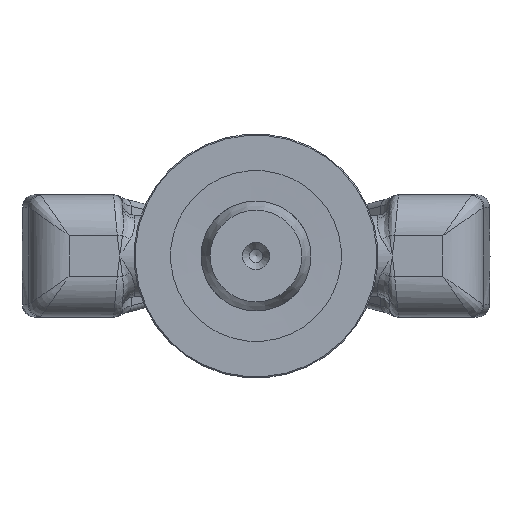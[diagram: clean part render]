
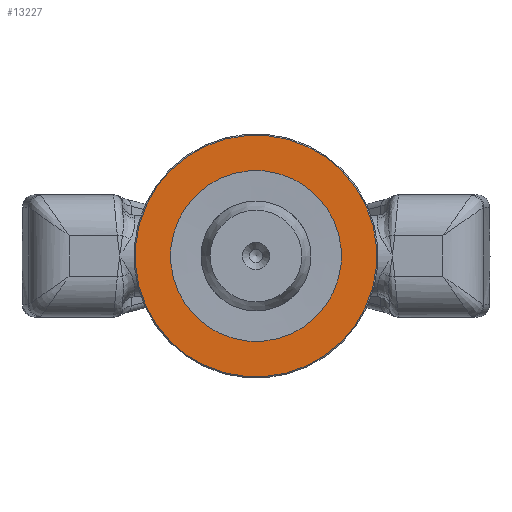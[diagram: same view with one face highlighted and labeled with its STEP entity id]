
A CAD part, front view. The second image highlights one B-rep face of the part: STEP entity #13227.
In plain terms, the highlighted planar face has unit normal (0, -1, 0) as drawn and (0, 0, -1) by its records, which use the part's own axes.
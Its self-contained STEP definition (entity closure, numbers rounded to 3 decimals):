
#263=FACE_BOUND('',#3945,.T.);
#541=PLANE('',#14215);
#3116=FACE_OUTER_BOUND('',#3944,.T.);
#3944=EDGE_LOOP('',(#11232));
#3945=EDGE_LOOP('',(#11233));
#4489=CIRCLE('',#14212,29.7);
#4491=CIRCLE('',#14216,21.);
#6149=VERTEX_POINT('',#41298);
#6151=VERTEX_POINT('',#41304);
#7929=EDGE_CURVE('',#6149,#6149,#4489,.T.);
#7931=EDGE_CURVE('',#6151,#6151,#4491,.T.);
#11232=ORIENTED_EDGE('',*,*,#7929,.F.);
#11233=ORIENTED_EDGE('',*,*,#7931,.F.);
#13227=ADVANCED_FACE('',(#3116,#263),#541,.F.);
#14212=AXIS2_PLACEMENT_3D('',#41299,#16246,#16247);
#14215=AXIS2_PLACEMENT_3D('',#41303,#16252,#16253);
#14216=AXIS2_PLACEMENT_3D('',#41305,#16254,#16255);
#16246=DIRECTION('center_axis',(0.,0.,1.));
#16247=DIRECTION('ref_axis',(-1.,0.,0.));
#16252=DIRECTION('center_axis',(0.,0.,1.));
#16253=DIRECTION('ref_axis',(1.,0.,0.));
#16254=DIRECTION('center_axis',(0.,0.,-1.));
#16255=DIRECTION('ref_axis',(-1.,0.,0.));
#41298=CARTESIAN_POINT('',(29.7,0.,0.));
#41299=CARTESIAN_POINT('Origin',(0.,0.,0.));
#41303=CARTESIAN_POINT('Origin',(0.,0.,0.));
#41304=CARTESIAN_POINT('',(21.,0.,0.));
#41305=CARTESIAN_POINT('Origin',(0.,0.,0.));
